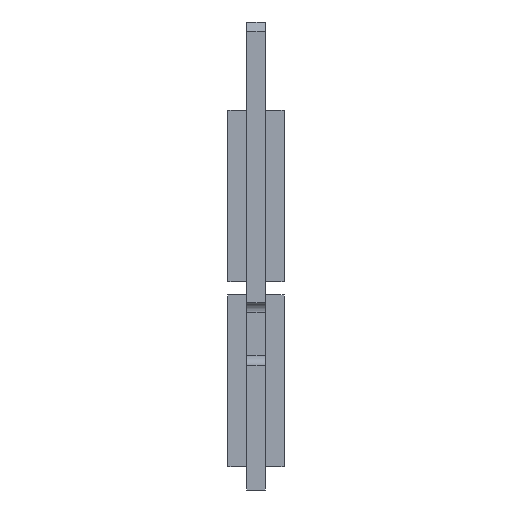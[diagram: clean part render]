
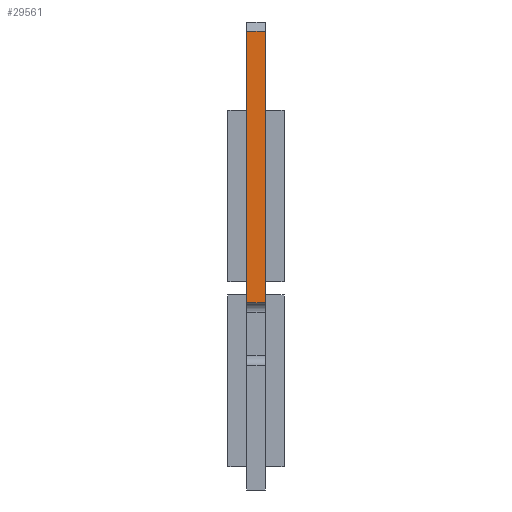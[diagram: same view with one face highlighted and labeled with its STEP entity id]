
A CAD part, left-side view. The second image highlights one B-rep face of the part: STEP entity #29561.
In plain terms, the highlighted planar face has unit normal (-1, 0, 0).
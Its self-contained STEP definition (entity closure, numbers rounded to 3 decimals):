
#220=DIRECTION('',(0.,0.,1.));
#221=VECTOR('',#220,17.4);
#222=CARTESIAN_POINT('',(-34.8,-0.6,-3.));
#223=LINE('',#222,#221);
#3920=DIRECTION('',(0.,0.,1.));
#3921=VECTOR('',#3920,17.4);
#3922=CARTESIAN_POINT('',(-34.8,0.6,-3.));
#3923=LINE('',#3922,#3921);
#7740=DIRECTION('',(0.,-1.,0.));
#7741=VECTOR('',#7740,1.2);
#7742=CARTESIAN_POINT('',(-34.8,0.6,14.4));
#7743=LINE('',#7742,#7741);
#7747=DIRECTION('',(0.,1.,0.));
#7748=VECTOR('',#7747,1.2);
#7749=CARTESIAN_POINT('',(-34.8,-0.6,-3.));
#7750=LINE('',#7749,#7748);
#25543=CARTESIAN_POINT('',(-34.8,-0.6,-3.));
#25545=VERTEX_POINT('',#25543);
#25563=CARTESIAN_POINT('',(-34.8,0.6,-3.));
#25565=VERTEX_POINT('',#25563);
#25573=CARTESIAN_POINT('',(-34.8,-0.6,14.4));
#25575=VERTEX_POINT('',#25573);
#25576=CARTESIAN_POINT('',(-34.8,0.6,14.4));
#25577=VERTEX_POINT('',#25576);
#29549=CARTESIAN_POINT('',(-34.8,-0.6,-3.));
#29550=DIRECTION('',(-1.,0.,0.));
#29551=DIRECTION('',(0.,0.,1.));
#29552=AXIS2_PLACEMENT_3D('',#29549,#29550,#29551);
#29553=PLANE('',#29552);
#29554=ORIENTED_EDGE('',*,*,#29541,.T.);
#29555=ORIENTED_EDGE('',*,*,#26791,.F.);
#29557=ORIENTED_EDGE('',*,*,#29556,.T.);
#29558=ORIENTED_EDGE('',*,*,#28143,.T.);
#29559=EDGE_LOOP('',(#29554,#29555,#29557,#29558));
#29560=FACE_OUTER_BOUND('',#29559,.F.);
#26791=EDGE_CURVE('',#25545,#25575,#223,.T.);
#28143=EDGE_CURVE('',#25565,#25577,#3923,.T.);
#29541=EDGE_CURVE('',#25577,#25575,#7743,.T.);
#29556=EDGE_CURVE('',#25545,#25565,#7750,.T.);
#29561=ADVANCED_FACE('',(#29560),#29553,.T.);
